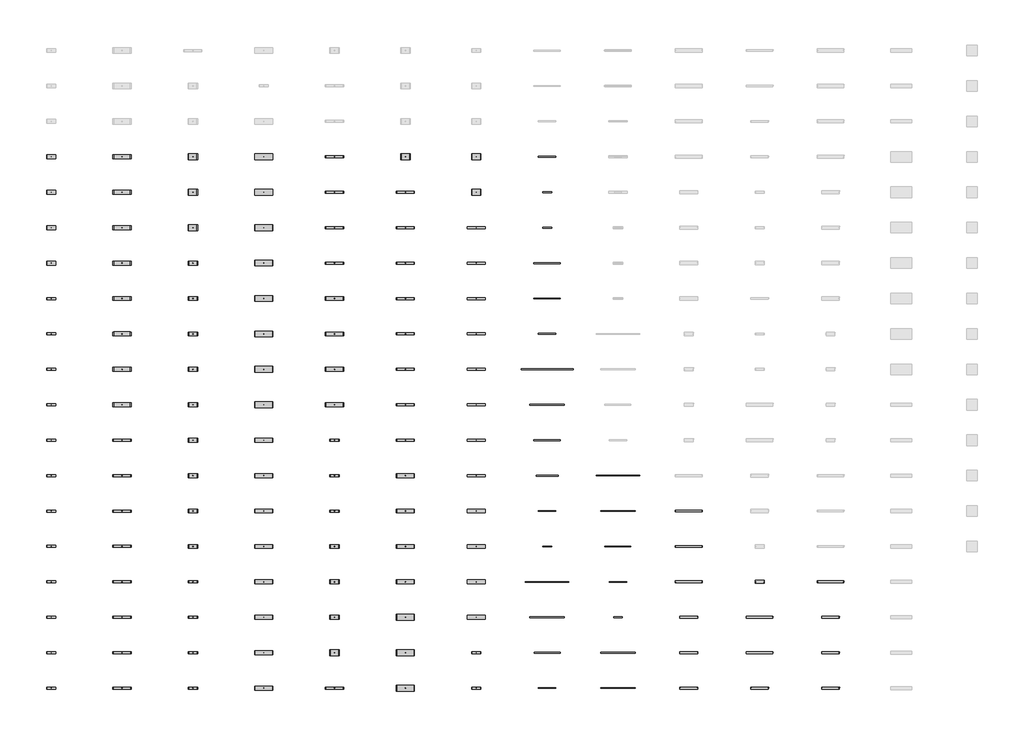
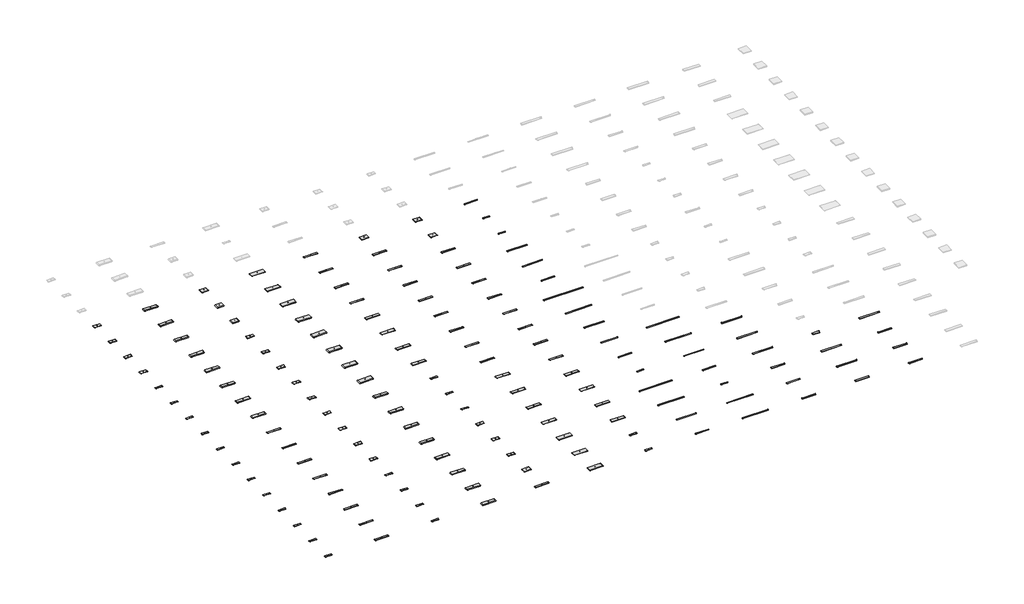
# One storey, part 1 of 7: 149 light fixtures.
"""IFC4 building model written with IfcOpenShell, lengths in millimetres."""

from ifc_helpers import new_model, si_unit, origin, place, context, project, spatial, transform, mapped, element, save
from components import light_fixture_ffda42ea, light_fixture_92eabb3a, light_fixture_b87eb1c6, light_fixture_46fbf182, light_fixture_1d3cdff3, light_fixture_3a14fd99, light_fixture_121728c5, light_fixture_7e128818, light_fixture_25df60ce, light_fixture_055937f4, light_fixture_e398c37d, light_fixture_01780e7a, light_fixture_3a991945, light_fixture_13f974ab, light_fixture_ddc3e724, light_fixture_c53e545b, light_fixture_a868d494, light_fixture_7213bc0d, light_fixture_4e222f7b, light_fixture_069bf89a, light_fixture_fca84b41, light_fixture_ab52292d, light_fixture_24b21b9c, light_fixture_b73f29e1, light_fixture_98d0d098

model = new_model("IFC4")

# Units and contexts
model_context = context("Model", 3, world=origin())
ifc_project = project(units=[si_unit("LENGTHUNIT", "METRE", prefix="MILLI")], contexts=[model_context])

# Site, building, storey
site = spatial("IfcSite", under=ifc_project)
building = spatial("IfcBuilding", under=site)
storey = spatial("IfcBuildingStorey", under=building, Name="Уровень 1", Elevation=0.0)

# Light fixtures
placement = place(None, origin())
light_fixture_shape = light_fixture_ffda42ea(model_context)
element("IfcLightFixture", 1, ObjectType="GENILED_Светильник светодиодный_Line Alum Advanced : Line Alum Advanced 500x50x50 20Вт 90Ra Опал", at=placement, inside=storey, context=model_context, shape_type="MappedRepresentation", body=[
    mapped(light_fixture_shape, transform((28000.0, 8000.0, 0.0), x_axis=(1.0, 0.0, 0.0), y_axis=(0.0, 1.0, 0.0), z_axis=(0.0, 0.0, 1.0))),
])
light_fixture_2_shape = light_fixture_92eabb3a(model_context)
element("IfcLightFixture", 2, ObjectType="GENILED_Светильник светодиодный_Line Alum Advanced : Line Alum Advanced 980x50x50 40Вт 90Ra Опал", at=placement, inside=storey, context=model_context, shape_type="MappedRepresentation", body=[
    mapped(light_fixture_2_shape, transform((28000.0, 10000.0, 0.0), x_axis=(1.0, 0.0, 0.0), y_axis=(0.0, 1.0, 0.0), z_axis=(0.0, 0.0, 1.0))),
])
light_fixture_3_shape = light_fixture_b87eb1c6(model_context)
element("IfcLightFixture", 3, ObjectType="GENILED_Светильник светодиодный_Line Alum Advanced : Line Alum Advanced 1250x50x50 50Вт 90Ra Опал", at=placement, inside=storey, context=model_context, shape_type="MappedRepresentation", body=[
    mapped(light_fixture_3_shape, transform((28000.0, 12000.0, 0.0), x_axis=(1.0, 0.0, 0.0), y_axis=(0.0, 1.0, 0.0), z_axis=(0.0, 0.0, 1.0))),
])
light_fixture_4_shape = light_fixture_46fbf182(model_context)
element("IfcLightFixture", 4, ObjectType="GENILED_Светильник светодиодный_Line Alum Advanced : Line Alum Advanced 1480x50x50 60Вт 90Ra Опал", at=placement, inside=storey, context=model_context, shape_type="MappedRepresentation", body=[
    mapped(light_fixture_4_shape, transform((28000.0, 14000.0, 0.0), x_axis=(1.0, 0.0, 0.0), y_axis=(0.0, 1.0, 0.0), z_axis=(0.0, 0.0, 1.0))),
])
light_fixture_5_shape = light_fixture_1d3cdff3(model_context)
element("IfcLightFixture", 5, ObjectType="GENILED_Светильник светодиодный_Line Alum Advanced : Line Alum Advanced 1960x50x50 80Вт 90Ra Опал", at=placement, inside=storey, context=model_context, shape_type="MappedRepresentation", body=[
    mapped(light_fixture_5_shape, transform((28000.0, 16000.0, 0.0), x_axis=(1.0, 0.0, 0.0), y_axis=(0.0, 1.0, 0.0), z_axis=(0.0, 0.0, 1.0))),
])
light_fixture_6_shape = light_fixture_3a14fd99(model_context)
element("IfcLightFixture", 6, ObjectType="GENILED_Светильник светодиодный_Line Alum Advanced : Line Alum Advanced 2940x50x50 120Вт 90Ra Опал", at=placement, inside=storey, context=model_context, shape_type="MappedRepresentation", body=[
    mapped(light_fixture_6_shape, transform((28000.0, 18000.0, 0.0), x_axis=(1.0, 0.0, 0.0), y_axis=(0.0, 1.0, 0.0), z_axis=(0.0, 0.0, 1.0))),
])
element("IfcLightFixture", 7, ObjectType="GENILED_Светильник светодиодный_Line Alum Basic : Line Alum Basic 980x50x50 40Вт Опал", at=placement, inside=storey, context=model_context, shape_type="MappedRepresentation", body=[
    mapped(light_fixture_2_shape, transform((28000.0, 20000.0, 0.0), x_axis=(1.0, 0.0, 0.0), y_axis=(0.0, 1.0, 0.0), z_axis=(0.0, 0.0, 1.0))),
])
element("IfcLightFixture", 8, ObjectType="GENILED_Светильник светодиодный_Line Alum Basic : Line Alum Basic 1480x50x50 30Вт Опал", at=placement, inside=storey, context=model_context, shape_type="MappedRepresentation", body=[
    mapped(light_fixture_4_shape, transform((28000.0, 22000.0, 0.0), x_axis=(1.0, 0.0, 0.0), y_axis=(0.0, 1.0, 0.0), z_axis=(0.0, 0.0, 1.0))),
])
element("IfcLightFixture", 9, ObjectType="GENILED_Светильник светодиодный_Line Alum Basic : Line Alum Basic 1480x50x50 60Вт Опал", at=placement, inside=storey, context=model_context, shape_type="MappedRepresentation", body=[
    mapped(light_fixture_4_shape, transform((28000.0, 24000.0, 0.0), x_axis=(1.0, 0.0, 0.0), y_axis=(0.0, 1.0, 0.0), z_axis=(0.0, 0.0, 1.0))),
])
element("IfcLightFixture", 10, ObjectType="GENILED_Светильник светодиодный_Line Alum Standart : Line Alum Standart 500x50x50 10Вт Опал", at=placement, inside=storey, context=model_context, shape_type="MappedRepresentation", body=[
    mapped(light_fixture_shape, transform((28000.0, 26000.0, 0.0), x_axis=(1.0, 0.0, 0.0), y_axis=(0.0, 1.0, 0.0), z_axis=(0.0, 0.0, 1.0))),
])
element("IfcLightFixture", 11, ObjectType="GENILED_Светильник светодиодный_Line Alum Standart : Line Alum Standart 500x50x50 20Вт Опал", at=placement, inside=storey, context=model_context, shape_type="MappedRepresentation", body=[
    mapped(light_fixture_shape, transform((28000.0, 28000.0, 0.0), x_axis=(1.0, 0.0, 0.0), y_axis=(0.0, 1.0, 0.0), z_axis=(0.0, 0.0, 1.0))),
])
element("IfcLightFixture", 12, ObjectType="GENILED_Светильник светодиодный_Line Alum Standart : Line Alum Standart 980x50x50 20Вт Опал", at=placement, inside=storey, context=model_context, shape_type="MappedRepresentation", body=[
    mapped(light_fixture_2_shape, transform((28000.0, 30000.0, 0.0), x_axis=(1.0, 0.0, 0.0), y_axis=(0.0, 1.0, 0.0), z_axis=(0.0, 0.0, 1.0))),
])
light_fixture_7_shape = light_fixture_121728c5(model_context)
element("IfcLightFixture", 13, ObjectType="GENILED_Светильник светодиодный_Line Basic : Line Basic 1962x40x50 40Вт Опал", at=placement, inside=storey, context=model_context, shape_type="MappedRepresentation", body=[
    mapped(light_fixture_7_shape, transform((32000.0, 0.0, 0.0), x_axis=(1.0, 0.0, 0.0), y_axis=(0.0, 1.0, 0.0), z_axis=(0.0, 0.0, 1.0))),
])
element("IfcLightFixture", 14, ObjectType="GENILED_Светильник светодиодный_Line Basic : Line Basic 1962x40x50 40Вт 90Ra Опал", at=placement, inside=storey, context=model_context, shape_type="MappedRepresentation", body=[
    mapped(light_fixture_7_shape, transform((32000.0, 2000.0, 0.0), x_axis=(1.0, 0.0, 0.0), y_axis=(0.0, 1.0, 0.0), z_axis=(0.0, 0.0, 1.0))),
])
light_fixture_8_shape = light_fixture_7e128818(model_context)
element("IfcLightFixture", 15, ObjectType="GENILED_Светильник светодиодный_Line Standart : Line Standart 500x40x50 10Вт Опал", at=placement, inside=storey, context=model_context, shape_type="MappedRepresentation", body=[
    mapped(light_fixture_8_shape, transform((32000.0, 4000.0, 0.0), x_axis=(1.0, 0.0, 0.0), y_axis=(0.0, 1.0, 0.0), z_axis=(0.0, 0.0, 1.0))),
])
light_fixture_9_shape = light_fixture_25df60ce(model_context)
element("IfcLightFixture", 16, ObjectType="GENILED_Светильник светодиодный_Line Standart : Line Standart 980x40x50 20Вт Опал", at=placement, inside=storey, context=model_context, shape_type="MappedRepresentation", body=[
    mapped(light_fixture_9_shape, transform((32000.0, 6000.0, 0.0), x_axis=(1.0, 0.0, 0.0), y_axis=(0.0, 1.0, 0.0), z_axis=(0.0, 0.0, 1.0))),
])
light_fixture_10_shape = light_fixture_055937f4(model_context)
element("IfcLightFixture", 17, ObjectType="GENILED_Светильник светодиодный_Line Standart : Line Standart 1472x40x50 30Вт Опал", at=placement, inside=storey, context=model_context, shape_type="MappedRepresentation", body=[
    mapped(light_fixture_10_shape, transform((32000.0, 8000.0, 0.0), x_axis=(1.0, 0.0, 0.0), y_axis=(0.0, 1.0, 0.0), z_axis=(0.0, 0.0, 1.0))),
])
element("IfcLightFixture", 18, ObjectType="GENILED_Светильник светодиодный_Line Standart : Line Standart 1962x40x50 40Вт Опал", at=placement, inside=storey, context=model_context, shape_type="MappedRepresentation", body=[
    mapped(light_fixture_7_shape, transform((32000.0, 10000.0, 0.0), x_axis=(1.0, 0.0, 0.0), y_axis=(0.0, 1.0, 0.0), z_axis=(0.0, 0.0, 1.0))),
])
light_fixture_11_shape = light_fixture_e398c37d(model_context)
element("IfcLightFixture", 19, ObjectType="GENILED_Светильник светодиодный_Line Standart : Line Standart 2450x40x50 50Вт Опал", at=placement, inside=storey, context=model_context, shape_type="MappedRepresentation", body=[
    mapped(light_fixture_11_shape, transform((32000.0, 12000.0, 0.0), x_axis=(1.0, 0.0, 0.0), y_axis=(0.0, 1.0, 0.0), z_axis=(0.0, 0.0, 1.0))),
])
light_fixture_12_shape = light_fixture_01780e7a(model_context)
element("IfcLightFixture", 20, ObjectType="GENILED_Светильник светодиодный_Titan Advanced : Titan Advanced 1000x100x30 40Вт IP66 Матовое закаленное стекло", at=placement, inside=storey, context=model_context, shape_type="MappedRepresentation", body=[
    mapped(light_fixture_12_shape, transform((36000.0, 0.0, 0.0), x_axis=(1.0, 0.0, 0.0), y_axis=(0.0, 1.0, 0.0), z_axis=(0.0, 0.0, 1.0))),
])
light_fixture_13_shape = light_fixture_3a991945(model_context)
element("IfcLightFixture", 21, ObjectType="GENILED_Светильник светодиодный_Titan Advanced : Titan Advanced 1000x100x25 60Вт IP66 Опал", at=placement, inside=storey, context=model_context, shape_type="MappedRepresentation", body=[
    mapped(light_fixture_13_shape, transform((36000.0, 2000.0, 0.0), x_axis=(1.0, 0.0, 0.0), y_axis=(0.0, 1.0, 0.0), z_axis=(0.0, 0.0, 1.0))),
])
element("IfcLightFixture", 22, ObjectType="GENILED_Светильник светодиодный_Titan Advanced : Titan Advanced 1000x100x30 60Вт IP66 Матовое закаленное стекло", at=placement, inside=storey, context=model_context, shape_type="MappedRepresentation", body=[
    mapped(light_fixture_12_shape, transform((36000.0, 4000.0, 0.0), x_axis=(1.0, 0.0, 0.0), y_axis=(0.0, 1.0, 0.0), z_axis=(0.0, 0.0, 1.0))),
])
light_fixture_14_shape = light_fixture_13f974ab(model_context)
element("IfcLightFixture", 23, ObjectType="GENILED_Светильник светодиодный_Titan Advanced : Titan Advanced 1500x100x25 60Вт IP66 Опал", at=placement, inside=storey, context=model_context, shape_type="MappedRepresentation", body=[
    mapped(light_fixture_14_shape, transform((36000.0, 6000.0, 0.0), x_axis=(1.0, 0.0, 0.0), y_axis=(0.0, 1.0, 0.0), z_axis=(0.0, 0.0, 1.0))),
])
light_fixture_15_shape = light_fixture_ddc3e724(model_context)
element("IfcLightFixture", 24, ObjectType="GENILED_Светильник светодиодный_Titan Advanced : Titan Advanced 1500x100x30 60Вт IP66 Матовое закаленное стекло", at=placement, inside=storey, context=model_context, shape_type="MappedRepresentation", body=[
    mapped(light_fixture_15_shape, transform((36000.0, 8000.0, 0.0), x_axis=(1.0, 0.0, 0.0), y_axis=(0.0, 1.0, 0.0), z_axis=(0.0, 0.0, 1.0))),
])
element("IfcLightFixture", 25, ObjectType="GENILED_Светильник светодиодный_Titan Advanced : Titan Advanced 1500x100x25 90Вт IP66 Опал", at=placement, inside=storey, context=model_context, shape_type="MappedRepresentation", body=[
    mapped(light_fixture_14_shape, transform((36000.0, 10000.0, 0.0), x_axis=(1.0, 0.0, 0.0), y_axis=(0.0, 1.0, 0.0), z_axis=(0.0, 0.0, 1.0))),
])
element("IfcLightFixture", 26, ObjectType="GENILED_Светильник светодиодный_Titan Inox Advanced : Titan Inox Advanced 1000x100x30 60Вт IP66 Матовое закаленное стекло", at=placement, inside=storey, context=model_context, shape_type="MappedRepresentation", body=[
    mapped(light_fixture_12_shape, transform((40000.0, 0.0, 0.0), x_axis=(1.0, 0.0, 0.0), y_axis=(0.0, 1.0, 0.0), z_axis=(0.0, 0.0, 1.0))),
])
element("IfcLightFixture", 27, ObjectType="GENILED_Светильник светодиодный_Titan Inox Advanced : Titan Inox Advanced 1500x100x30 60Вт IP66 Матовое закаленное стекло", at=placement, inside=storey, context=model_context, shape_type="MappedRepresentation", body=[
    mapped(light_fixture_15_shape, transform((40000.0, 2000.0, 0.0), x_axis=(1.0, 0.0, 0.0), y_axis=(0.0, 1.0, 0.0), z_axis=(0.0, 0.0, 1.0))),
])
element("IfcLightFixture", 28, ObjectType="GENILED_Светильник светодиодный_Titan Inox Advanced : Titan Inox Advanced 1500x100x30 90Вт IP66 Матовое закаленное стекло", at=placement, inside=storey, context=model_context, shape_type="MappedRepresentation", body=[
    mapped(light_fixture_15_shape, transform((40000.0, 4000.0, 0.0), x_axis=(1.0, 0.0, 0.0), y_axis=(0.0, 1.0, 0.0), z_axis=(0.0, 0.0, 1.0))),
])
light_fixture_16_shape = light_fixture_c53e545b(model_context)
element("IfcLightFixture", 29, ObjectType="GENILED_Светильник светодиодный_Titan Inox Advanced : Titan Inox Advanced 500x180x30 40Вт IP66 Матовое закаленное стекло", at=placement, inside=storey, context=model_context, shape_type="MappedRepresentation", body=[
    mapped(light_fixture_16_shape, transform((40000.0, 6000.0, 0.0), x_axis=(1.0, 0.0, 0.0), y_axis=(0.0, 1.0, 0.0), z_axis=(0.0, 0.0, 1.0))),
])
element("IfcLightFixture", 30, ObjectType="GENILED_Светильник светодиодный_Titan Standart : Titan Standart 1000x100x30 40Вт IP66 Матовое закаленное стекло", at=placement, inside=storey, context=model_context, shape_type="MappedRepresentation", body=[
    mapped(light_fixture_12_shape, transform((44000.0, 0.0, 0.0), x_axis=(1.0, 0.0, 0.0), y_axis=(0.0, 1.0, 0.0), z_axis=(0.0, 0.0, 1.0))),
])
element("IfcLightFixture", 31, ObjectType="GENILED_Светильник светодиодный_Titan Standart : Titan Standart 1000x100x25 60Вт IP66 Опал", at=placement, inside=storey, context=model_context, shape_type="MappedRepresentation", body=[
    mapped(light_fixture_13_shape, transform((44000.0, 2000.0, 0.0), x_axis=(1.0, 0.0, 0.0), y_axis=(0.0, 1.0, 0.0), z_axis=(0.0, 0.0, 1.0))),
])
element("IfcLightFixture", 32, ObjectType="GENILED_Светильник светодиодный_Titan Standart : Titan Standart 1000x100x30 60Вт IP66 Матовое закаленное стекло", at=placement, inside=storey, context=model_context, shape_type="MappedRepresentation", body=[
    mapped(light_fixture_12_shape, transform((44000.0, 4000.0, 0.0), x_axis=(1.0, 0.0, 0.0), y_axis=(0.0, 1.0, 0.0), z_axis=(0.0, 0.0, 1.0))),
])
element("IfcLightFixture", 33, ObjectType="GENILED_Светильник светодиодный_Titan Standart : Titan Standart 1500x100x25 60Вт IP66 Опал", at=placement, inside=storey, context=model_context, shape_type="MappedRepresentation", body=[
    mapped(light_fixture_14_shape, transform((44000.0, 6000.0, 0.0), x_axis=(1.0, 0.0, 0.0), y_axis=(0.0, 1.0, 0.0), z_axis=(0.0, 0.0, 1.0))),
])
light_fixture_17_shape = light_fixture_a868d494(model_context)
element("IfcLightFixture", 34, ObjectType="GENILED_Светильник светодиодный_Element Advanced : Element Advanced 0,5x1 20Вт Матовое закаленное стекло", at=placement, inside=storey, context=model_context, shape_type="MappedRepresentation", body=[
    mapped(light_fixture_17_shape, transform((0.0, 0.0, 0.0), x_axis=(1.0, 0.0, 0.0), y_axis=(0.0, 1.0, 0.0), z_axis=(0.0, 0.0, 1.0))),
])
element("IfcLightFixture", 35, ObjectType="GENILED_Светильник светодиодный_Element Advanced : Element Advanced 0,5x1 20Вт Прозрачное закаленное стекло", at=placement, inside=storey, context=model_context, shape_type="MappedRepresentation", body=[
    mapped(light_fixture_17_shape, transform((0.0, 2000.0, 0.0), x_axis=(1.0, 0.0, 0.0), y_axis=(0.0, 1.0, 0.0), z_axis=(0.0, 0.0, 1.0))),
])
element("IfcLightFixture", 36, ObjectType="GENILED_Светильник светодиодный_Element Advanced : Element Advanced 0,5x1 30Вт Матовое закаленное стекло", at=placement, inside=storey, context=model_context, shape_type="MappedRepresentation", body=[
    mapped(light_fixture_17_shape, transform((0.0, 4000.0, 0.0), x_axis=(1.0, 0.0, 0.0), y_axis=(0.0, 1.0, 0.0), z_axis=(0.0, 0.0, 1.0))),
])
element("IfcLightFixture", 37, ObjectType="GENILED_Светильник светодиодный_Element Advanced : Element Advanced 0,5x1 30Вт Линза Ш2", at=placement, inside=storey, context=model_context, shape_type="MappedRepresentation", body=[
    mapped(light_fixture_17_shape, transform((0.0, 6000.0, 0.0), x_axis=(1.0, 0.0, 0.0), y_axis=(0.0, 1.0, 0.0), z_axis=(0.0, 0.0, 1.0))),
])
element("IfcLightFixture", 38, ObjectType="GENILED_Светильник светодиодный_Element Advanced : Element Advanced 0,5x1 40Вт Матовое закаленное стекло", at=placement, inside=storey, context=model_context, shape_type="MappedRepresentation", body=[
    mapped(light_fixture_17_shape, transform((0.0, 8000.0, 0.0), x_axis=(1.0, 0.0, 0.0), y_axis=(0.0, 1.0, 0.0), z_axis=(0.0, 0.0, 1.0))),
])
element("IfcLightFixture", 39, ObjectType="GENILED_Светильник светодиодный_Element Advanced : Element Advanced 0,5x1 40Вт Линза Ш2", at=placement, inside=storey, context=model_context, shape_type="MappedRepresentation", body=[
    mapped(light_fixture_17_shape, transform((0.0, 10000.0, 0.0), x_axis=(1.0, 0.0, 0.0), y_axis=(0.0, 1.0, 0.0), z_axis=(0.0, 0.0, 1.0))),
])
element("IfcLightFixture", 40, ObjectType="GENILED_Светильник светодиодный_Element Advanced : Element Advanced 0,5x1 50Вт Матовое закаленное стекло", at=placement, inside=storey, context=model_context, shape_type="MappedRepresentation", body=[
    mapped(light_fixture_17_shape, transform((0.0, 12000.0, 0.0), x_axis=(1.0, 0.0, 0.0), y_axis=(0.0, 1.0, 0.0), z_axis=(0.0, 0.0, 1.0))),
])
element("IfcLightFixture", 41, ObjectType="GENILED_Светильник светодиодный_Element Advanced : Element Advanced 0,5x1 50Вт Линза Ш2", at=placement, inside=storey, context=model_context, shape_type="MappedRepresentation", body=[
    mapped(light_fixture_17_shape, transform((0.0, 14000.0, 0.0), x_axis=(1.0, 0.0, 0.0), y_axis=(0.0, 1.0, 0.0), z_axis=(0.0, 0.0, 1.0))),
])
element("IfcLightFixture", 42, ObjectType="GENILED_Светильник светодиодный_Element Advanced : Element Advanced 0,5x1 60Вт Матовое закаленное стекло", at=placement, inside=storey, context=model_context, shape_type="MappedRepresentation", body=[
    mapped(light_fixture_17_shape, transform((0.0, 16000.0, 0.0), x_axis=(1.0, 0.0, 0.0), y_axis=(0.0, 1.0, 0.0), z_axis=(0.0, 0.0, 1.0))),
])
element("IfcLightFixture", 43, ObjectType="GENILED_Светильник светодиодный_Element Advanced : Element Advanced 0,5x1 60Вт Линза Ш2", at=placement, inside=storey, context=model_context, shape_type="MappedRepresentation", body=[
    mapped(light_fixture_17_shape, transform((0.0, 18000.0, 0.0), x_axis=(1.0, 0.0, 0.0), y_axis=(0.0, 1.0, 0.0), z_axis=(0.0, 0.0, 1.0))),
])
element("IfcLightFixture", 44, ObjectType="GENILED_Светильник светодиодный_Element Advanced : Element Advanced 0,5x1 70Вт Матовое закаленное стекло", at=placement, inside=storey, context=model_context, shape_type="MappedRepresentation", body=[
    mapped(light_fixture_17_shape, transform((0.0, 20000.0, 0.0), x_axis=(1.0, 0.0, 0.0), y_axis=(0.0, 1.0, 0.0), z_axis=(0.0, 0.0, 1.0))),
])
element("IfcLightFixture", 45, ObjectType="GENILED_Светильник светодиодный_Element Advanced : Element Advanced 0,5x1 70Вт Линза Ш2", at=placement, inside=storey, context=model_context, shape_type="MappedRepresentation", body=[
    mapped(light_fixture_17_shape, transform((0.0, 22000.0, 0.0), x_axis=(1.0, 0.0, 0.0), y_axis=(0.0, 1.0, 0.0), z_axis=(0.0, 0.0, 1.0))),
])
light_fixture_18_shape = light_fixture_7213bc0d(model_context)
element("IfcLightFixture", 46, ObjectType="GENILED_Светильник светодиодный_Element Advanced : Element Advanced 0,5x2 80Вт Матовое закаленное стекло", at=placement, inside=storey, context=model_context, shape_type="MappedRepresentation", body=[
    mapped(light_fixture_18_shape, transform((0.0, 24000.0, 0.0), x_axis=(1.0, 0.0, 0.0), y_axis=(0.0, 1.0, 0.0), z_axis=(0.0, 0.0, 1.0))),
])
element("IfcLightFixture", 47, ObjectType="GENILED_Светильник светодиодный_Element Advanced : Element Advanced 0,5x2 80Вт Линза Ш2", at=placement, inside=storey, context=model_context, shape_type="MappedRepresentation", body=[
    mapped(light_fixture_18_shape, transform((0.0, 26000.0, 0.0), x_axis=(1.0, 0.0, 0.0), y_axis=(0.0, 1.0, 0.0), z_axis=(0.0, 0.0, 1.0))),
])
element("IfcLightFixture", 48, ObjectType="GENILED_Светильник светодиодный_Element Advanced : Element Advanced 0,5x2 100Вт Матовое закаленное стекло", at=placement, inside=storey, context=model_context, shape_type="MappedRepresentation", body=[
    mapped(light_fixture_18_shape, transform((0.0, 28000.0, 0.0), x_axis=(1.0, 0.0, 0.0), y_axis=(0.0, 1.0, 0.0), z_axis=(0.0, 0.0, 1.0))),
])
element("IfcLightFixture", 49, ObjectType="GENILED_Светильник светодиодный_Element Advanced : Element Advanced 0,5x2 100Вт Линза Ш2", at=placement, inside=storey, context=model_context, shape_type="MappedRepresentation", body=[
    mapped(light_fixture_18_shape, transform((0.0, 30000.0, 0.0), x_axis=(1.0, 0.0, 0.0), y_axis=(0.0, 1.0, 0.0), z_axis=(0.0, 0.0, 1.0))),
])
light_fixture_19_shape = light_fixture_4e222f7b(model_context)
element("IfcLightFixture", 50, ObjectType="GENILED_Светильник светодиодный_Element Advanced : Element Advanced 1,0x1 80Вт Матовое закаленное стекло", at=placement, inside=storey, context=model_context, shape_type="MappedRepresentation", body=[
    mapped(light_fixture_19_shape, transform((4000.0, 0.0, 0.0), x_axis=(1.0, 0.0, 0.0), y_axis=(0.0, 1.0, 0.0), z_axis=(0.0, 0.0, 1.0))),
])
element("IfcLightFixture", 51, ObjectType="GENILED_Светильник светодиодный_Element Advanced : Element Advanced 1,0x1 80Вт Линза Ш2", at=placement, inside=storey, context=model_context, shape_type="MappedRepresentation", body=[
    mapped(light_fixture_19_shape, transform((4000.0, 2000.0, 0.0), x_axis=(1.0, 0.0, 0.0), y_axis=(0.0, 1.0, 0.0), z_axis=(0.0, 0.0, 1.0))),
])
element("IfcLightFixture", 52, ObjectType="GENILED_Светильник светодиодный_Element Advanced : Element Advanced 1,0x1 100Вт Линза Ш2", at=placement, inside=storey, context=model_context, shape_type="MappedRepresentation", body=[
    mapped(light_fixture_19_shape, transform((4000.0, 4000.0, 0.0), x_axis=(1.0, 0.0, 0.0), y_axis=(0.0, 1.0, 0.0), z_axis=(0.0, 0.0, 1.0))),
])
element("IfcLightFixture", 53, ObjectType="GENILED_Светильник светодиодный_Element Advanced : Element Advanced 1,0x1 100Вт Опал", at=placement, inside=storey, context=model_context, shape_type="MappedRepresentation", body=[
    mapped(light_fixture_19_shape, transform((4000.0, 6000.0, 0.0), x_axis=(1.0, 0.0, 0.0), y_axis=(0.0, 1.0, 0.0), z_axis=(0.0, 0.0, 1.0))),
])
element("IfcLightFixture", 54, ObjectType="GENILED_Светильник светодиодный_Element Advanced : Element Advanced 1,0x1 120Вт Матовое закаленное стекло", at=placement, inside=storey, context=model_context, shape_type="MappedRepresentation", body=[
    mapped(light_fixture_19_shape, transform((4000.0, 8000.0, 0.0), x_axis=(1.0, 0.0, 0.0), y_axis=(0.0, 1.0, 0.0), z_axis=(0.0, 0.0, 1.0))),
])
element("IfcLightFixture", 55, ObjectType="GENILED_Светильник светодиодный_Element Advanced : Element Advanced 1,0x1 120Вт Линза Ш2", at=placement, inside=storey, context=model_context, shape_type="MappedRepresentation", body=[
    mapped(light_fixture_19_shape, transform((4000.0, 10000.0, 0.0), x_axis=(1.0, 0.0, 0.0), y_axis=(0.0, 1.0, 0.0), z_axis=(0.0, 0.0, 1.0))),
])
element("IfcLightFixture", 56, ObjectType="GENILED_Светильник светодиодный_Element Advanced : Element Advanced 1,0x1 140Вт Матовое закаленное стекло", at=placement, inside=storey, context=model_context, shape_type="MappedRepresentation", body=[
    mapped(light_fixture_19_shape, transform((4000.0, 12000.0, 0.0), x_axis=(1.0, 0.0, 0.0), y_axis=(0.0, 1.0, 0.0), z_axis=(0.0, 0.0, 1.0))),
])
element("IfcLightFixture", 57, ObjectType="GENILED_Светильник светодиодный_Element Advanced : Element Advanced 1,0x1 140Вт Линза Ш2", at=placement, inside=storey, context=model_context, shape_type="MappedRepresentation", body=[
    mapped(light_fixture_19_shape, transform((4000.0, 14000.0, 0.0), x_axis=(1.0, 0.0, 0.0), y_axis=(0.0, 1.0, 0.0), z_axis=(0.0, 0.0, 1.0))),
])
light_fixture_20_shape = light_fixture_069bf89a(model_context)
element("IfcLightFixture", 58, ObjectType="GENILED_Светильник светодиодный_Element Advanced : Element Advanced 1,0x2 160Вт Матовое закаленное стекло", at=placement, inside=storey, context=model_context, shape_type="MappedRepresentation", body=[
    mapped(light_fixture_20_shape, transform((4000.0, 16000.0, 0.0), x_axis=(1.0, 0.0, 0.0), y_axis=(0.0, 1.0, 0.0), z_axis=(0.0, 0.0, 1.0))),
])
element("IfcLightFixture", 59, ObjectType="GENILED_Светильник светодиодный_Element Advanced : Element Advanced 1,0x2 160Вт Линза Ш2", at=placement, inside=storey, context=model_context, shape_type="MappedRepresentation", body=[
    mapped(light_fixture_20_shape, transform((4000.0, 18000.0, 0.0), x_axis=(1.0, 0.0, 0.0), y_axis=(0.0, 1.0, 0.0), z_axis=(0.0, 0.0, 1.0))),
])
element("IfcLightFixture", 60, ObjectType="GENILED_Светильник светодиодный_Element Advanced : Element Advanced 1,0x2 200Вт Матовое закаленное стекло", at=placement, inside=storey, context=model_context, shape_type="MappedRepresentation", body=[
    mapped(light_fixture_20_shape, transform((4000.0, 20000.0, 0.0), x_axis=(1.0, 0.0, 0.0), y_axis=(0.0, 1.0, 0.0), z_axis=(0.0, 0.0, 1.0))),
])
element("IfcLightFixture", 61, ObjectType="GENILED_Светильник светодиодный_Element Advanced : Element Advanced 1,0x2 200Вт Линза Ш2", at=placement, inside=storey, context=model_context, shape_type="MappedRepresentation", body=[
    mapped(light_fixture_20_shape, transform((4000.0, 22000.0, 0.0), x_axis=(1.0, 0.0, 0.0), y_axis=(0.0, 1.0, 0.0), z_axis=(0.0, 0.0, 1.0))),
])
element("IfcLightFixture", 62, ObjectType="GENILED_Светильник светодиодный_Element Advanced : Element Advanced 1,0x2 240Вт Матовое закаленное стекло", at=placement, inside=storey, context=model_context, shape_type="MappedRepresentation", body=[
    mapped(light_fixture_20_shape, transform((4000.0, 24000.0, 0.0), x_axis=(1.0, 0.0, 0.0), y_axis=(0.0, 1.0, 0.0), z_axis=(0.0, 0.0, 1.0))),
])
element("IfcLightFixture", 63, ObjectType="GENILED_Светильник светодиодный_Element Advanced : Element Advanced 1,0x2 240Вт Линза Ш2", at=placement, inside=storey, context=model_context, shape_type="MappedRepresentation", body=[
    mapped(light_fixture_20_shape, transform((4000.0, 26000.0, 0.0), x_axis=(1.0, 0.0, 0.0), y_axis=(0.0, 1.0, 0.0), z_axis=(0.0, 0.0, 1.0))),
])
element("IfcLightFixture", 64, ObjectType="GENILED_Светильник светодиодный_Element Advanced : Element Advanced 1,0x2 280Вт Матовое закаленное стекло", at=placement, inside=storey, context=model_context, shape_type="MappedRepresentation", body=[
    mapped(light_fixture_20_shape, transform((4000.0, 28000.0, 0.0), x_axis=(1.0, 0.0, 0.0), y_axis=(0.0, 1.0, 0.0), z_axis=(0.0, 0.0, 1.0))),
])
element("IfcLightFixture", 65, ObjectType="GENILED_Светильник светодиодный_Element Advanced : Element Advanced 1,0x2 280Вт Линза Ш2", at=placement, inside=storey, context=model_context, shape_type="MappedRepresentation", body=[
    mapped(light_fixture_20_shape, transform((4000.0, 30000.0, 0.0), x_axis=(1.0, 0.0, 0.0), y_axis=(0.0, 1.0, 0.0), z_axis=(0.0, 0.0, 1.0))),
])
element("IfcLightFixture", 66, ObjectType="GENILED_Светильник светодиодный_Element Standart : Element Standart 0,5x1 60Вт Матовое закаленное стекло", at=placement, inside=storey, context=model_context, shape_type="MappedRepresentation", body=[
    mapped(light_fixture_17_shape, transform((8000.0, 0.0, 0.0), x_axis=(1.0, 0.0, 0.0), y_axis=(0.0, 1.0, 0.0), z_axis=(0.0, 0.0, 1.0))),
])
element("IfcLightFixture", 67, ObjectType="GENILED_Светильник светодиодный_Element Standart : Element Standart 0,5x1 60Вт Линза Ш2", at=placement, inside=storey, context=model_context, shape_type="MappedRepresentation", body=[
    mapped(light_fixture_17_shape, transform((8000.0, 2000.0, 0.0), x_axis=(1.0, 0.0, 0.0), y_axis=(0.0, 1.0, 0.0), z_axis=(0.0, 0.0, 1.0))),
])
element("IfcLightFixture", 68, ObjectType="GENILED_Светильник светодиодный_Element Standart : Element Standart 0,5x1 70Вт Матовое закаленное стекло", at=placement, inside=storey, context=model_context, shape_type="MappedRepresentation", body=[
    mapped(light_fixture_17_shape, transform((8000.0, 4000.0, 0.0), x_axis=(1.0, 0.0, 0.0), y_axis=(0.0, 1.0, 0.0), z_axis=(0.0, 0.0, 1.0))),
])
element("IfcLightFixture", 69, ObjectType="GENILED_Светильник светодиодный_Element Standart : Element Standart 0,5x1 70Вт Линза Ш2", at=placement, inside=storey, context=model_context, shape_type="MappedRepresentation", body=[
    mapped(light_fixture_17_shape, transform((8000.0, 6000.0, 0.0), x_axis=(1.0, 0.0, 0.0), y_axis=(0.0, 1.0, 0.0), z_axis=(0.0, 0.0, 1.0))),
])
element("IfcLightFixture", 70, ObjectType="GENILED_Светильник светодиодный_Element Standart : Element Standart 0,5x2 80Вт Матовое закаленное стекло", at=placement, inside=storey, context=model_context, shape_type="MappedRepresentation", body=[
    mapped(light_fixture_18_shape, transform((8000.0, 8000.0, 0.0), x_axis=(1.0, 0.0, 0.0), y_axis=(0.0, 1.0, 0.0), z_axis=(0.0, 0.0, 1.0))),
])
element("IfcLightFixture", 71, ObjectType="GENILED_Светильник светодиодный_Element Standart : Element Standart 0,5x2 80Вт Линза Ш2", at=placement, inside=storey, context=model_context, shape_type="MappedRepresentation", body=[
    mapped(light_fixture_18_shape, transform((8000.0, 10000.0, 0.0), x_axis=(1.0, 0.0, 0.0), y_axis=(0.0, 1.0, 0.0), z_axis=(0.0, 0.0, 1.0))),
])
element("IfcLightFixture", 72, ObjectType="GENILED_Светильник светодиодный_Element Standart : Element Standart 0,5x2 100Вт Матовое закаленное стекло", at=placement, inside=storey, context=model_context, shape_type="MappedRepresentation", body=[
    mapped(light_fixture_18_shape, transform((8000.0, 12000.0, 0.0), x_axis=(1.0, 0.0, 0.0), y_axis=(0.0, 1.0, 0.0), z_axis=(0.0, 0.0, 1.0))),
])
element("IfcLightFixture", 73, ObjectType="GENILED_Светильник светодиодный_Element Standart : Element Standart 0,5x2 100Вт Линза Ш2", at=placement, inside=storey, context=model_context, shape_type="MappedRepresentation", body=[
    mapped(light_fixture_18_shape, transform((8000.0, 14000.0, 0.0), x_axis=(1.0, 0.0, 0.0), y_axis=(0.0, 1.0, 0.0), z_axis=(0.0, 0.0, 1.0))),
])
element("IfcLightFixture", 74, ObjectType="GENILED_Светильник светодиодный_Element Standart : Element Standart 0,5x2 120Вт Матовое закаленное стекло", at=placement, inside=storey, context=model_context, shape_type="MappedRepresentation", body=[
    mapped(light_fixture_18_shape, transform((8000.0, 16000.0, 0.0), x_axis=(1.0, 0.0, 0.0), y_axis=(0.0, 1.0, 0.0), z_axis=(0.0, 0.0, 1.0))),
])
element("IfcLightFixture", 75, ObjectType="GENILED_Светильник светодиодный_Element Standart : Element Standart 0,5x2 120Вт Линза Ш2", at=placement, inside=storey, context=model_context, shape_type="MappedRepresentation", body=[
    mapped(light_fixture_18_shape, transform((8000.0, 18000.0, 0.0), x_axis=(1.0, 0.0, 0.0), y_axis=(0.0, 1.0, 0.0), z_axis=(0.0, 0.0, 1.0))),
])
element("IfcLightFixture", 76, ObjectType="GENILED_Светильник светодиодный_Element Standart : Element Standart 0,5x2 140Вт Матовое закаленное стекло", at=placement, inside=storey, context=model_context, shape_type="MappedRepresentation", body=[
    mapped(light_fixture_18_shape, transform((8000.0, 20000.0, 0.0), x_axis=(1.0, 0.0, 0.0), y_axis=(0.0, 1.0, 0.0), z_axis=(0.0, 0.0, 1.0))),
])
element("IfcLightFixture", 77, ObjectType="GENILED_Светильник светодиодный_Element Standart : Element Standart 0,5x2 140Вт Линза Ш2", at=placement, inside=storey, context=model_context, shape_type="MappedRepresentation", body=[
    mapped(light_fixture_18_shape, transform((8000.0, 22000.0, 0.0), x_axis=(1.0, 0.0, 0.0), y_axis=(0.0, 1.0, 0.0), z_axis=(0.0, 0.0, 1.0))),
])
element("IfcLightFixture", 78, ObjectType="GENILED_Светильник светодиодный_Element Standart : Element Standart 0,5x3 150Вт Матовое закаленное стекло", at=placement, inside=storey, context=model_context, shape_type="MappedRepresentation", body=[
    mapped(light_fixture_18_shape, transform((8000.0, 24000.0, 0.0), x_axis=(1.0, 0.0, 0.0), y_axis=(0.0, 1.0, 0.0), z_axis=(0.0, 0.0, 1.0))),
])
light_fixture_21_shape = light_fixture_fca84b41(model_context)
element("IfcLightFixture", 79, ObjectType="GENILED_Светильник светодиодный_Element Standart : Element Standart 0,5x3 150Вт Линза Ш2", at=placement, inside=storey, context=model_context, shape_type="MappedRepresentation", body=[
    mapped(light_fixture_21_shape, transform((8000.0, 26000.0, 0.0), x_axis=(1.0, 0.0, 0.0), y_axis=(0.0, 1.0, 0.0), z_axis=(0.0, 0.0, 1.0))),
])
element("IfcLightFixture", 80, ObjectType="GENILED_Светильник светодиодный_Element Standart : Element Standart 0,5x3 180Вт Матовое закаленное стекло", at=placement, inside=storey, context=model_context, shape_type="MappedRepresentation", body=[
    mapped(light_fixture_21_shape, transform((8000.0, 28000.0, 0.0), x_axis=(1.0, 0.0, 0.0), y_axis=(0.0, 1.0, 0.0), z_axis=(0.0, 0.0, 1.0))),
])
element("IfcLightFixture", 81, ObjectType="GENILED_Светильник светодиодный_Element Standart : Element Standart 0,5x3 180Вт Линза Ш2", at=placement, inside=storey, context=model_context, shape_type="MappedRepresentation", body=[
    mapped(light_fixture_21_shape, transform((8000.0, 30000.0, 0.0), x_axis=(1.0, 0.0, 0.0), y_axis=(0.0, 1.0, 0.0), z_axis=(0.0, 0.0, 1.0))),
])
element("IfcLightFixture", 82, ObjectType="GENILED_Светильник светодиодный_Element Standart : Element Standart 1,0x2 160Вт Матовое закаленное стекло", at=placement, inside=storey, context=model_context, shape_type="MappedRepresentation", body=[
    mapped(light_fixture_20_shape, transform((12000.0, 0.0, 0.0), x_axis=(1.0, 0.0, 0.0), y_axis=(0.0, 1.0, 0.0), z_axis=(0.0, 0.0, 1.0))),
])
element("IfcLightFixture", 83, ObjectType="GENILED_Светильник светодиодный_Element Standart : Element Standart 1,0x2 160Вт Линза Ш2", at=placement, inside=storey, context=model_context, shape_type="MappedRepresentation", body=[
    mapped(light_fixture_20_shape, transform((12000.0, 2000.0, 0.0), x_axis=(1.0, 0.0, 0.0), y_axis=(0.0, 1.0, 0.0), z_axis=(0.0, 0.0, 1.0))),
])
element("IfcLightFixture", 84, ObjectType="GENILED_Светильник светодиодный_Element Standart : Element Standart 1,0x2 200Вт Матовое закаленное стекло", at=placement, inside=storey, context=model_context, shape_type="MappedRepresentation", body=[
    mapped(light_fixture_20_shape, transform((12000.0, 4000.0, 0.0), x_axis=(1.0, 0.0, 0.0), y_axis=(0.0, 1.0, 0.0), z_axis=(0.0, 0.0, 1.0))),
])
element("IfcLightFixture", 85, ObjectType="GENILED_Светильник светодиодный_Element Standart : Element Standart 1,0x2 200Вт Линза Ш2", at=placement, inside=storey, context=model_context, shape_type="MappedRepresentation", body=[
    mapped(light_fixture_20_shape, transform((12000.0, 6000.0, 0.0), x_axis=(1.0, 0.0, 0.0), y_axis=(0.0, 1.0, 0.0), z_axis=(0.0, 0.0, 1.0))),
])
element("IfcLightFixture", 86, ObjectType="GENILED_Светильник светодиодный_Element Standart : Element Standart 1,0x2 240Вт Матовое закаленное стекло", at=placement, inside=storey, context=model_context, shape_type="MappedRepresentation", body=[
    mapped(light_fixture_20_shape, transform((12000.0, 8000.0, 0.0), x_axis=(1.0, 0.0, 0.0), y_axis=(0.0, 1.0, 0.0), z_axis=(0.0, 0.0, 1.0))),
])
element("IfcLightFixture", 87, ObjectType="GENILED_Светильник светодиодный_Element Standart : Element Standart 1,0x2 240Вт Линза Ш2", at=placement, inside=storey, context=model_context, shape_type="MappedRepresentation", body=[
    mapped(light_fixture_20_shape, transform((12000.0, 10000.0, 0.0), x_axis=(1.0, 0.0, 0.0), y_axis=(0.0, 1.0, 0.0), z_axis=(0.0, 0.0, 1.0))),
])
element("IfcLightFixture", 88, ObjectType="GENILED_Светильник светодиодный_Element Standart : Element Standart 1,0x2 280Вт Матовое закаленное стекло", at=placement, inside=storey, context=model_context, shape_type="MappedRepresentation", body=[
    mapped(light_fixture_20_shape, transform((12000.0, 12000.0, 0.0), x_axis=(1.0, 0.0, 0.0), y_axis=(0.0, 1.0, 0.0), z_axis=(0.0, 0.0, 1.0))),
])
element("IfcLightFixture", 89, ObjectType="GENILED_Светильник светодиодный_Element Standart : Element Standart 1,0x2 280Вт Линза Ш2", at=placement, inside=storey, context=model_context, shape_type="MappedRepresentation", body=[
    mapped(light_fixture_20_shape, transform((12000.0, 14000.0, 0.0), x_axis=(1.0, 0.0, 0.0), y_axis=(0.0, 1.0, 0.0), z_axis=(0.0, 0.0, 1.0))),
])
light_fixture_22_shape = light_fixture_ab52292d(model_context)
element("IfcLightFixture", 90, ObjectType="GENILED_Светильник светодиодный_Element Standart : Element Standart 1,0x3 300Вт Матовое закаленное стекло", at=placement, inside=storey, context=model_context, shape_type="MappedRepresentation", body=[
    mapped(light_fixture_22_shape, transform((12000.0, 16000.0, 0.0), x_axis=(1.0, 0.0, 0.0), y_axis=(0.0, 1.0, 0.0), z_axis=(0.0, 0.0, 1.0))),
])
element("IfcLightFixture", 91, ObjectType="GENILED_Светильник светодиодный_Element Standart : Element Standart 1,0x3 300Вт Прозрачное закаленное стекло", at=placement, inside=storey, context=model_context, shape_type="MappedRepresentation", body=[
    mapped(light_fixture_22_shape, transform((12000.0, 18000.0, 0.0), x_axis=(1.0, 0.0, 0.0), y_axis=(0.0, 1.0, 0.0), z_axis=(0.0, 0.0, 1.0))),
])
element("IfcLightFixture", 92, ObjectType="GENILED_Светильник светодиодный_Element Standart : Element Standart 1,0x3 360Вт Матовое закаленное стекло", at=placement, inside=storey, context=model_context, shape_type="MappedRepresentation", body=[
    mapped(light_fixture_22_shape, transform((12000.0, 20000.0, 0.0), x_axis=(1.0, 0.0, 0.0), y_axis=(0.0, 1.0, 0.0), z_axis=(0.0, 0.0, 1.0))),
])
element("IfcLightFixture", 93, ObjectType="GENILED_Светильник светодиодный_Element Standart : Element Standart 1,0x3 360Вт Прозрачное закаленное стекло", at=placement, inside=storey, context=model_context, shape_type="MappedRepresentation", body=[
    mapped(light_fixture_22_shape, transform((12000.0, 22000.0, 0.0), x_axis=(1.0, 0.0, 0.0), y_axis=(0.0, 1.0, 0.0), z_axis=(0.0, 0.0, 1.0))),
])
element("IfcLightFixture", 94, ObjectType="GENILED_Светильник светодиодный_Element Standart : Element Standart 1,0x3 420Вт Матовое закаленное стекло", at=placement, inside=storey, context=model_context, shape_type="MappedRepresentation", body=[
    mapped(light_fixture_22_shape, transform((12000.0, 24000.0, 0.0), x_axis=(1.0, 0.0, 0.0), y_axis=(0.0, 1.0, 0.0), z_axis=(0.0, 0.0, 1.0))),
])
element("IfcLightFixture", 95, ObjectType="GENILED_Светильник светодиодный_Element Standart : Element Standart 1,0x3 420Вт Прозрачное закаленное стекло", at=placement, inside=storey, context=model_context, shape_type="MappedRepresentation", body=[
    mapped(light_fixture_22_shape, transform((12000.0, 26000.0, 0.0), x_axis=(1.0, 0.0, 0.0), y_axis=(0.0, 1.0, 0.0), z_axis=(0.0, 0.0, 1.0))),
])
light_fixture_23_shape = light_fixture_24b21b9c(model_context)
element("IfcLightFixture", 96, ObjectType="GENILED_Светильник светодиодный_Element Низковольтный : Element 1,0x3 420Вт 24В Прозрачное закаленное стекло", at=placement, inside=storey, context=model_context, shape_type="MappedRepresentation", body=[
    mapped(light_fixture_23_shape, transform((12000.0, 28000.0, 0.0), x_axis=(1.0, 0.0, 0.0), y_axis=(0.0, 1.0, 0.0), z_axis=(0.0, 0.0, 1.0))),
])
element("IfcLightFixture", 97, ObjectType="GENILED_Светильник светодиодный_Element Низковольтный : Element 1,0x3 360Вт 24В Прозрачное закаленное стекло", at=placement, inside=storey, context=model_context, shape_type="MappedRepresentation", body=[
    mapped(light_fixture_23_shape, transform((12000.0, 30000.0, 0.0), x_axis=(1.0, 0.0, 0.0), y_axis=(0.0, 1.0, 0.0), z_axis=(0.0, 0.0, 1.0))),
])
element("IfcLightFixture", 98, ObjectType="GENILED_Светильник светодиодный_Element Низковольтный : Element 1,0x1 100Вт 24В Опал", at=placement, inside=storey, context=model_context, shape_type="MappedRepresentation", body=[
    mapped(light_fixture_19_shape, transform((16000.0, 0.0, 0.0), x_axis=(1.0, 0.0, 0.0), y_axis=(0.0, 1.0, 0.0), z_axis=(0.0, 0.0, 1.0))),
])
light_fixture_24_shape = light_fixture_b73f29e1(model_context)
element("IfcLightFixture", 99, ObjectType="GENILED_Светильник светодиодный_Element Низковольтный : Element 0,5x3 180Вт 24В Опал", at=placement, inside=storey, context=model_context, shape_type="MappedRepresentation", body=[
    mapped(light_fixture_24_shape, transform((16000.0, 2000.0, 0.0), x_axis=(1.0, 0.0, 0.0), y_axis=(0.0, 1.0, 0.0), z_axis=(0.0, 0.0, 1.0))),
])
element("IfcLightFixture", 100, ObjectType="GENILED_Светильник светодиодный_Element Низковольтный : Element 0,5x2 80Вт 24В Опал", at=placement, inside=storey, context=model_context, shape_type="MappedRepresentation", body=[
    mapped(light_fixture_18_shape, transform((16000.0, 4000.0, 0.0), x_axis=(1.0, 0.0, 0.0), y_axis=(0.0, 1.0, 0.0), z_axis=(0.0, 0.0, 1.0))),
])
element("IfcLightFixture", 101, ObjectType="GENILED_Светильник светодиодный_Element Низковольтный : Element 0,5x2 120Вт 24В Опал", at=placement, inside=storey, context=model_context, shape_type="MappedRepresentation", body=[
    mapped(light_fixture_18_shape, transform((16000.0, 6000.0, 0.0), x_axis=(1.0, 0.0, 0.0), y_axis=(0.0, 1.0, 0.0), z_axis=(0.0, 0.0, 1.0))),
])
element("IfcLightFixture", 102, ObjectType="GENILED_Светильник светодиодный_Element Низковольтный : Element 0,5x2 100Вт 24В Опал", at=placement, inside=storey, context=model_context, shape_type="MappedRepresentation", body=[
    mapped(light_fixture_18_shape, transform((16000.0, 8000.0, 0.0), x_axis=(1.0, 0.0, 0.0), y_axis=(0.0, 1.0, 0.0), z_axis=(0.0, 0.0, 1.0))),
])
element("IfcLightFixture", 103, ObjectType="GENILED_Светильник светодиодный_Element Низковольтный : Element 0,5x1 60Вт 24В Опал", at=placement, inside=storey, context=model_context, shape_type="MappedRepresentation", body=[
    mapped(light_fixture_17_shape, transform((16000.0, 10000.0, 0.0), x_axis=(1.0, 0.0, 0.0), y_axis=(0.0, 1.0, 0.0), z_axis=(0.0, 0.0, 1.0))),
])
element("IfcLightFixture", 104, ObjectType="GENILED_Светильник светодиодный_Element Низковольтный : Element 0,5x1 40Вт 24В Опал", at=placement, inside=storey, context=model_context, shape_type="MappedRepresentation", body=[
    mapped(light_fixture_17_shape, transform((16000.0, 12000.0, 0.0), x_axis=(1.0, 0.0, 0.0), y_axis=(0.0, 1.0, 0.0), z_axis=(0.0, 0.0, 1.0))),
])
element("IfcLightFixture", 105, ObjectType="GENILED_Светильник светодиодный_Element Низковольтный : Element 0,5x1 20Вт 24В Опал", at=placement, inside=storey, context=model_context, shape_type="MappedRepresentation", body=[
    mapped(light_fixture_17_shape, transform((16000.0, 14000.0, 0.0), x_axis=(1.0, 0.0, 0.0), y_axis=(0.0, 1.0, 0.0), z_axis=(0.0, 0.0, 1.0))),
])
light_fixture_25_shape = light_fixture_98d0d098(model_context)
element("IfcLightFixture", 106, ObjectType="GENILED_Светильник светодиодный_Element Низковольтный : Element 1,0x2 280Вт 24В Линза Ш2", at=placement, inside=storey, context=model_context, shape_type="MappedRepresentation", body=[
    mapped(light_fixture_25_shape, transform((16000.0, 16000.0, 0.0), x_axis=(1.0, 0.0, 0.0), y_axis=(0.0, 1.0, 0.0), z_axis=(0.0, 0.0, 1.0))),
])
element("IfcLightFixture", 107, ObjectType="GENILED_Светильник светодиодный_Element Низковольтный : Element 1,0x2 240Вт 24В Линза Ш2", at=placement, inside=storey, context=model_context, shape_type="MappedRepresentation", body=[
    mapped(light_fixture_25_shape, transform((16000.0, 18000.0, 0.0), x_axis=(1.0, 0.0, 0.0), y_axis=(0.0, 1.0, 0.0), z_axis=(0.0, 0.0, 1.0))),
])
element("IfcLightFixture", 108, ObjectType="GENILED_Светильник светодиодный_Element Низковольтный : Element 1,0x2 200Вт 24В Линза Ш2", at=placement, inside=storey, context=model_context, shape_type="MappedRepresentation", body=[
    mapped(light_fixture_25_shape, transform((16000.0, 20000.0, 0.0), x_axis=(1.0, 0.0, 0.0), y_axis=(0.0, 1.0, 0.0), z_axis=(0.0, 0.0, 1.0))),
])
element("IfcLightFixture", 109, ObjectType="GENILED_Светильник светодиодный_Element Низковольтный : Element 1,0x2 160Вт 24В Линза Ш2", at=placement, inside=storey, context=model_context, shape_type="MappedRepresentation", body=[
    mapped(light_fixture_25_shape, transform((16000.0, 22000.0, 0.0), x_axis=(1.0, 0.0, 0.0), y_axis=(0.0, 1.0, 0.0), z_axis=(0.0, 0.0, 1.0))),
])
element("IfcLightFixture", 110, ObjectType="GENILED_Светильник светодиодный_Element Низковольтный : Element 1,0x1 80Вт 24В Линза Ш2", at=placement, inside=storey, context=model_context, shape_type="MappedRepresentation", body=[
    mapped(light_fixture_19_shape, transform((16000.0, 24000.0, 0.0), x_axis=(1.0, 0.0, 0.0), y_axis=(0.0, 1.0, 0.0), z_axis=(0.0, 0.0, 1.0))),
])
element("IfcLightFixture", 111, ObjectType="GENILED_Светильник светодиодный_Element Низковольтный : Element 1,0x1 60Вт 24В Линза Ш2", at=placement, inside=storey, context=model_context, shape_type="MappedRepresentation", body=[
    mapped(light_fixture_19_shape, transform((16000.0, 26000.0, 0.0), x_axis=(1.0, 0.0, 0.0), y_axis=(0.0, 1.0, 0.0), z_axis=(0.0, 0.0, 1.0))),
])
element("IfcLightFixture", 112, ObjectType="GENILED_Светильник светодиодный_Element Низковольтный : Element 1,0x1 40Вт 24В Линза Ш2", at=placement, inside=storey, context=model_context, shape_type="MappedRepresentation", body=[
    mapped(light_fixture_19_shape, transform((16000.0, 28000.0, 0.0), x_axis=(1.0, 0.0, 0.0), y_axis=(0.0, 1.0, 0.0), z_axis=(0.0, 0.0, 1.0))),
])
element("IfcLightFixture", 113, ObjectType="GENILED_Светильник светодиодный_Element Низковольтный : Element 1,0x1 140Вт 24В Линза Ш2", at=placement, inside=storey, context=model_context, shape_type="MappedRepresentation", body=[
    mapped(light_fixture_19_shape, transform((16000.0, 30000.0, 0.0), x_axis=(1.0, 0.0, 0.0), y_axis=(0.0, 1.0, 0.0), z_axis=(0.0, 0.0, 1.0))),
])
element("IfcLightFixture", 114, ObjectType="GENILED_Светильник светодиодный_Element Низковольтный : Element 1,0x3 360Вт 12В Опал", at=placement, inside=storey, context=model_context, shape_type="MappedRepresentation", body=[
    mapped(light_fixture_23_shape, transform((20000.0, 0.0, 0.0), x_axis=(1.0, 0.0, 0.0), y_axis=(0.0, 1.0, 0.0), z_axis=(0.0, 0.0, 1.0))),
])
element("IfcLightFixture", 115, ObjectType="GENILED_Светильник светодиодный_Element Низковольтный : Element 1,0x3 360Вт 36В Опал", at=placement, inside=storey, context=model_context, shape_type="MappedRepresentation", body=[
    mapped(light_fixture_23_shape, transform((20000.0, 2000.0, 0.0), x_axis=(1.0, 0.0, 0.0), y_axis=(0.0, 1.0, 0.0), z_axis=(0.0, 0.0, 1.0))),
])
element("IfcLightFixture", 116, ObjectType="GENILED_Светильник светодиодный_Element Низковольтный : Element 1,0x3 300Вт 12В Опал", at=placement, inside=storey, context=model_context, shape_type="MappedRepresentation", body=[
    mapped(light_fixture_23_shape, transform((20000.0, 4000.0, 0.0), x_axis=(1.0, 0.0, 0.0), y_axis=(0.0, 1.0, 0.0), z_axis=(0.0, 0.0, 1.0))),
])
element("IfcLightFixture", 117, ObjectType="GENILED_Светильник светодиодный_Element Низковольтный : Element 1,0x2 280Вт 12В Опал", at=placement, inside=storey, context=model_context, shape_type="MappedRepresentation", body=[
    mapped(light_fixture_25_shape, transform((20000.0, 6000.0, 0.0), x_axis=(1.0, 0.0, 0.0), y_axis=(0.0, 1.0, 0.0), z_axis=(0.0, 0.0, 1.0))),
])
element("IfcLightFixture", 118, ObjectType="GENILED_Светильник светодиодный_Element Низковольтный : Element 1,0x2 240Вт 12В Опал", at=placement, inside=storey, context=model_context, shape_type="MappedRepresentation", body=[
    mapped(light_fixture_25_shape, transform((20000.0, 8000.0, 0.0), x_axis=(1.0, 0.0, 0.0), y_axis=(0.0, 1.0, 0.0), z_axis=(0.0, 0.0, 1.0))),
])
element("IfcLightFixture", 119, ObjectType="GENILED_Светильник светодиодный_Element Низковольтный : Element 1,0x2 200Вт 12В Опал", at=placement, inside=storey, context=model_context, shape_type="MappedRepresentation", body=[
    mapped(light_fixture_25_shape, transform((20000.0, 10000.0, 0.0), x_axis=(1.0, 0.0, 0.0), y_axis=(0.0, 1.0, 0.0), z_axis=(0.0, 0.0, 1.0))),
])
element("IfcLightFixture", 120, ObjectType="GENILED_Светильник светодиодный_Element Низковольтный : Element 1,0x2 160Вт 12В Опал", at=placement, inside=storey, context=model_context, shape_type="MappedRepresentation", body=[
    mapped(light_fixture_25_shape, transform((20000.0, 12000.0, 0.0), x_axis=(1.0, 0.0, 0.0), y_axis=(0.0, 1.0, 0.0), z_axis=(0.0, 0.0, 1.0))),
])
element("IfcLightFixture", 121, ObjectType="GENILED_Светильник светодиодный_Element Низковольтный : Element 1,0x1 80Вт 12В Опал", at=placement, inside=storey, context=model_context, shape_type="MappedRepresentation", body=[
    mapped(light_fixture_19_shape, transform((20000.0, 14000.0, 0.0), x_axis=(1.0, 0.0, 0.0), y_axis=(0.0, 1.0, 0.0), z_axis=(0.0, 0.0, 1.0))),
])
element("IfcLightFixture", 122, ObjectType="GENILED_Светильник светодиодный_Element Низковольтный : Element 1,0x1 60Вт 12В Опал", at=placement, inside=storey, context=model_context, shape_type="MappedRepresentation", body=[
    mapped(light_fixture_19_shape, transform((20000.0, 16000.0, 0.0), x_axis=(1.0, 0.0, 0.0), y_axis=(0.0, 1.0, 0.0), z_axis=(0.0, 0.0, 1.0))),
])
element("IfcLightFixture", 123, ObjectType="GENILED_Светильник светодиодный_Element Низковольтный : Element 1,0x1 60Вт 36В Опал", at=placement, inside=storey, context=model_context, shape_type="MappedRepresentation", body=[
    mapped(light_fixture_19_shape, transform((20000.0, 18000.0, 0.0), x_axis=(1.0, 0.0, 0.0), y_axis=(0.0, 1.0, 0.0), z_axis=(0.0, 0.0, 1.0))),
])
element("IfcLightFixture", 124, ObjectType="GENILED_Светильник светодиодный_Element Низковольтный : Element 1,0x1 40Вт 12В Опал", at=placement, inside=storey, context=model_context, shape_type="MappedRepresentation", body=[
    mapped(light_fixture_19_shape, transform((20000.0, 20000.0, 0.0), x_axis=(1.0, 0.0, 0.0), y_axis=(0.0, 1.0, 0.0), z_axis=(0.0, 0.0, 1.0))),
])
element("IfcLightFixture", 125, ObjectType="GENILED_Светильник светодиодный_Element Низковольтный : Element 1,0x1 140Вт 12В Опал", at=placement, inside=storey, context=model_context, shape_type="MappedRepresentation", body=[
    mapped(light_fixture_19_shape, transform((20000.0, 22000.0, 0.0), x_axis=(1.0, 0.0, 0.0), y_axis=(0.0, 1.0, 0.0), z_axis=(0.0, 0.0, 1.0))),
])
element("IfcLightFixture", 126, ObjectType="GENILED_Светильник светодиодный_Element Низковольтный : Element 1,0x1 120Вт 12В Опал", at=placement, inside=storey, context=model_context, shape_type="MappedRepresentation", body=[
    mapped(light_fixture_19_shape, transform((20000.0, 24000.0, 0.0), x_axis=(1.0, 0.0, 0.0), y_axis=(0.0, 1.0, 0.0), z_axis=(0.0, 0.0, 1.0))),
])
element("IfcLightFixture", 127, ObjectType="GENILED_Светильник светодиодный_Element Низковольтный : Element 1,0x1 120Вт 36В Опал", at=placement, inside=storey, context=model_context, shape_type="MappedRepresentation", body=[
    mapped(light_fixture_19_shape, transform((20000.0, 26000.0, 0.0), x_axis=(1.0, 0.0, 0.0), y_axis=(0.0, 1.0, 0.0), z_axis=(0.0, 0.0, 1.0))),
])
element("IfcLightFixture", 128, ObjectType="GENILED_Светильник светодиодный_Element Низковольтный : Element 1,0x1 100Вт 12В Опал", at=placement, inside=storey, context=model_context, shape_type="MappedRepresentation", body=[
    mapped(light_fixture_19_shape, transform((20000.0, 28000.0, 0.0), x_axis=(1.0, 0.0, 0.0), y_axis=(0.0, 1.0, 0.0), z_axis=(0.0, 0.0, 1.0))),
])
element("IfcLightFixture", 129, ObjectType="GENILED_Светильник светодиодный_Element Низковольтный : Element 0,5x3 210Вт 12В Опал", at=placement, inside=storey, context=model_context, shape_type="MappedRepresentation", body=[
    mapped(light_fixture_24_shape, transform((20000.0, 30000.0, 0.0), x_axis=(1.0, 0.0, 0.0), y_axis=(0.0, 1.0, 0.0), z_axis=(0.0, 0.0, 1.0))),
])
element("IfcLightFixture", 130, ObjectType="GENILED_Светильник светодиодный_Element Низковольтный : Element 0,5x1 30Вт 36В Опал", at=placement, inside=storey, context=model_context, shape_type="MappedRepresentation", body=[
    mapped(light_fixture_17_shape, transform((24000.0, 0.0, 0.0), x_axis=(1.0, 0.0, 0.0), y_axis=(0.0, 1.0, 0.0), z_axis=(0.0, 0.0, 1.0))),
])
element("IfcLightFixture", 131, ObjectType="GENILED_Светильник светодиодный_Element Низковольтный : Element 0,5x1 20Вт 12В Опал", at=placement, inside=storey, context=model_context, shape_type="MappedRepresentation", body=[
    mapped(light_fixture_17_shape, transform((24000.0, 2000.0, 0.0), x_axis=(1.0, 0.0, 0.0), y_axis=(0.0, 1.0, 0.0), z_axis=(0.0, 0.0, 1.0))),
])
element("IfcLightFixture", 132, ObjectType="GENILED_Светильник светодиодный_Element Низковольтный : Element 1,0x2 280Вт 12В Линза Ш2", at=placement, inside=storey, context=model_context, shape_type="MappedRepresentation", body=[
    mapped(light_fixture_25_shape, transform((24000.0, 4000.0, 0.0), x_axis=(1.0, 0.0, 0.0), y_axis=(0.0, 1.0, 0.0), z_axis=(0.0, 0.0, 1.0))),
])
element("IfcLightFixture", 133, ObjectType="GENILED_Светильник светодиодный_Element Низковольтный : Element 1,0x2 240Вт 12В Линза Ш2", at=placement, inside=storey, context=model_context, shape_type="MappedRepresentation", body=[
    mapped(light_fixture_25_shape, transform((24000.0, 6000.0, 0.0), x_axis=(1.0, 0.0, 0.0), y_axis=(0.0, 1.0, 0.0), z_axis=(0.0, 0.0, 1.0))),
])
element("IfcLightFixture", 134, ObjectType="GENILED_Светильник светодиодный_Element Низковольтный : Element 1,0x2 200Вт 12В Линза Ш2", at=placement, inside=storey, context=model_context, shape_type="MappedRepresentation", body=[
    mapped(light_fixture_25_shape, transform((24000.0, 8000.0, 0.0), x_axis=(1.0, 0.0, 0.0), y_axis=(0.0, 1.0, 0.0), z_axis=(0.0, 0.0, 1.0))),
])
element("IfcLightFixture", 135, ObjectType="GENILED_Светильник светодиодный_Element Низковольтный : Element 1,0x2 160Вт 12В Линза Ш2", at=placement, inside=storey, context=model_context, shape_type="MappedRepresentation", body=[
    mapped(light_fixture_25_shape, transform((24000.0, 10000.0, 0.0), x_axis=(1.0, 0.0, 0.0), y_axis=(0.0, 1.0, 0.0), z_axis=(0.0, 0.0, 1.0))),
])
element("IfcLightFixture", 136, ObjectType="GENILED_Светильник светодиодный_Element Низковольтный : Element 1,0x1 80Вт 12В Линза Ш2", at=placement, inside=storey, context=model_context, shape_type="MappedRepresentation", body=[
    mapped(light_fixture_19_shape, transform((24000.0, 12000.0, 0.0), x_axis=(1.0, 0.0, 0.0), y_axis=(0.0, 1.0, 0.0), z_axis=(0.0, 0.0, 1.0))),
])
element("IfcLightFixture", 137, ObjectType="GENILED_Светильник светодиодный_Element Низковольтный : Element 1,0x1 60Вт 12В Линза Ш2", at=placement, inside=storey, context=model_context, shape_type="MappedRepresentation", body=[
    mapped(light_fixture_19_shape, transform((24000.0, 14000.0, 0.0), x_axis=(1.0, 0.0, 0.0), y_axis=(0.0, 1.0, 0.0), z_axis=(0.0, 0.0, 1.0))),
])
element("IfcLightFixture", 138, ObjectType="GENILED_Светильник светодиодный_Element Низковольтный : Element 1,0x1 60Вт 36В Линза Ш2", at=placement, inside=storey, context=model_context, shape_type="MappedRepresentation", body=[
    mapped(light_fixture_19_shape, transform((24000.0, 16000.0, 0.0), x_axis=(1.0, 0.0, 0.0), y_axis=(0.0, 1.0, 0.0), z_axis=(0.0, 0.0, 1.0))),
])
element("IfcLightFixture", 139, ObjectType="GENILED_Светильник светодиодный_Element Низковольтный : Element 1,0x1 40Вт 12В Линза Ш2", at=placement, inside=storey, context=model_context, shape_type="MappedRepresentation", body=[
    mapped(light_fixture_19_shape, transform((24000.0, 18000.0, 0.0), x_axis=(1.0, 0.0, 0.0), y_axis=(0.0, 1.0, 0.0), z_axis=(0.0, 0.0, 1.0))),
])
element("IfcLightFixture", 140, ObjectType="GENILED_Светильник светодиодный_Element Низковольтный : Element 1,0x1 140Вт 12В Линза Ш2", at=placement, inside=storey, context=model_context, shape_type="MappedRepresentation", body=[
    mapped(light_fixture_19_shape, transform((24000.0, 20000.0, 0.0), x_axis=(1.0, 0.0, 0.0), y_axis=(0.0, 1.0, 0.0), z_axis=(0.0, 0.0, 1.0))),
])
element("IfcLightFixture", 141, ObjectType="GENILED_Светильник светодиодный_Element Низковольтный : Element 1,0x1 120Вт 12В Линза Ш2", at=placement, inside=storey, context=model_context, shape_type="MappedRepresentation", body=[
    mapped(light_fixture_19_shape, transform((24000.0, 22000.0, 0.0), x_axis=(1.0, 0.0, 0.0), y_axis=(0.0, 1.0, 0.0), z_axis=(0.0, 0.0, 1.0))),
])
element("IfcLightFixture", 142, ObjectType="GENILED_Светильник светодиодный_Element Низковольтный : Element 1,0x1 120Вт 36В Линза Ш2", at=placement, inside=storey, context=model_context, shape_type="MappedRepresentation", body=[
    mapped(light_fixture_19_shape, transform((24000.0, 24000.0, 0.0), x_axis=(1.0, 0.0, 0.0), y_axis=(0.0, 1.0, 0.0), z_axis=(0.0, 0.0, 1.0))),
])
element("IfcLightFixture", 143, ObjectType="GENILED_Светильник светодиодный_Element Низковольтный : Element 1,0x1 100Вт 12В Линза Ш2", at=placement, inside=storey, context=model_context, shape_type="MappedRepresentation", body=[
    mapped(light_fixture_19_shape, transform((24000.0, 26000.0, 0.0), x_axis=(1.0, 0.0, 0.0), y_axis=(0.0, 1.0, 0.0), z_axis=(0.0, 0.0, 1.0))),
])
element("IfcLightFixture", 144, ObjectType="GENILED_Светильник светодиодный_Element Низковольтный : Element 0,5x3 210Вт 12В Линза Ш2", at=placement, inside=storey, context=model_context, shape_type="MappedRepresentation", body=[
    mapped(light_fixture_24_shape, transform((24000.0, 28000.0, 0.0), x_axis=(1.0, 0.0, 0.0), y_axis=(0.0, 1.0, 0.0), z_axis=(0.0, 0.0, 1.0))),
])
element("IfcLightFixture", 145, ObjectType="GENILED_Светильник светодиодный_Element Низковольтный : Element 0,5x3 180Вт 12В Линза Ш2", at=placement, inside=storey, context=model_context, shape_type="MappedRepresentation", body=[
    mapped(light_fixture_24_shape, transform((24000.0, 30000.0, 0.0), x_axis=(1.0, 0.0, 0.0), y_axis=(0.0, 1.0, 0.0), z_axis=(0.0, 0.0, 1.0))),
])
element("IfcLightFixture", 146, ObjectType="GENILED_Светильник светодиодный_Line Advanced : Line Advanced 980x40x50 20Вт Опал", at=placement, inside=storey, context=model_context, shape_type="MappedRepresentation", body=[
    mapped(light_fixture_9_shape, transform((28000.0, 0.0, 0.0), x_axis=(1.0, 0.0, 0.0), y_axis=(0.0, 1.0, 0.0), z_axis=(0.0, 0.0, 1.0))),
])
element("IfcLightFixture", 147, ObjectType="GENILED_Светильник светодиодный_Line Advanced : Line Advanced 1472x40x50 30Вт Опал", at=placement, inside=storey, context=model_context, shape_type="MappedRepresentation", body=[
    mapped(light_fixture_10_shape, transform((28000.0, 2000.0, 0.0), x_axis=(1.0, 0.0, 0.0), y_axis=(0.0, 1.0, 0.0), z_axis=(0.0, 0.0, 1.0))),
])
element("IfcLightFixture", 148, ObjectType="GENILED_Светильник светодиодный_Line Advanced : Line Advanced 1962x40x50 40Вт Опал", at=placement, inside=storey, context=model_context, shape_type="MappedRepresentation", body=[
    mapped(light_fixture_7_shape, transform((28000.0, 4000.0, 0.0), x_axis=(1.0, 0.0, 0.0), y_axis=(0.0, 1.0, 0.0), z_axis=(0.0, 0.0, 1.0))),
])
element("IfcLightFixture", 149, ObjectType="GENILED_Светильник светодиодный_Line Advanced : Line Advanced 2450x40x50 50Вт Опал", at=placement, inside=storey, context=model_context, shape_type="MappedRepresentation", body=[
    mapped(light_fixture_11_shape, transform((28000.0, 6000.0, 0.0), x_axis=(1.0, 0.0, 0.0), y_axis=(0.0, 1.0, 0.0), z_axis=(0.0, 0.0, 1.0))),
])

save(model, "model.ifc")
